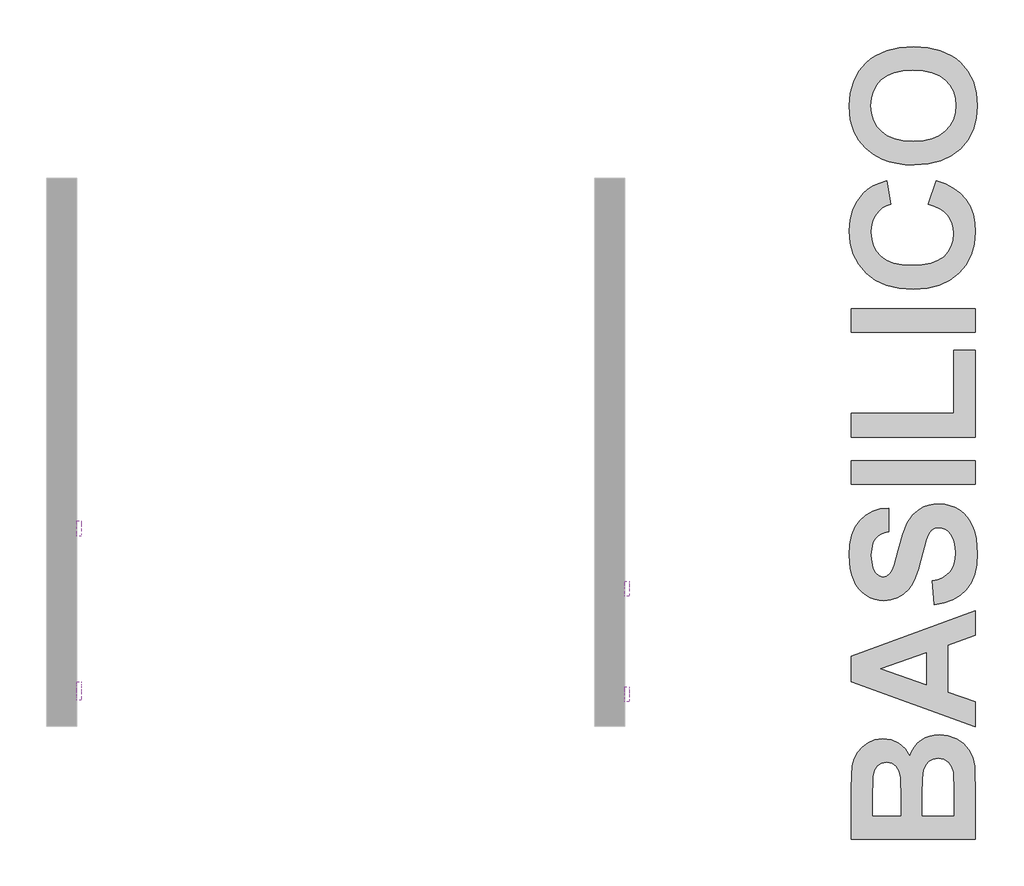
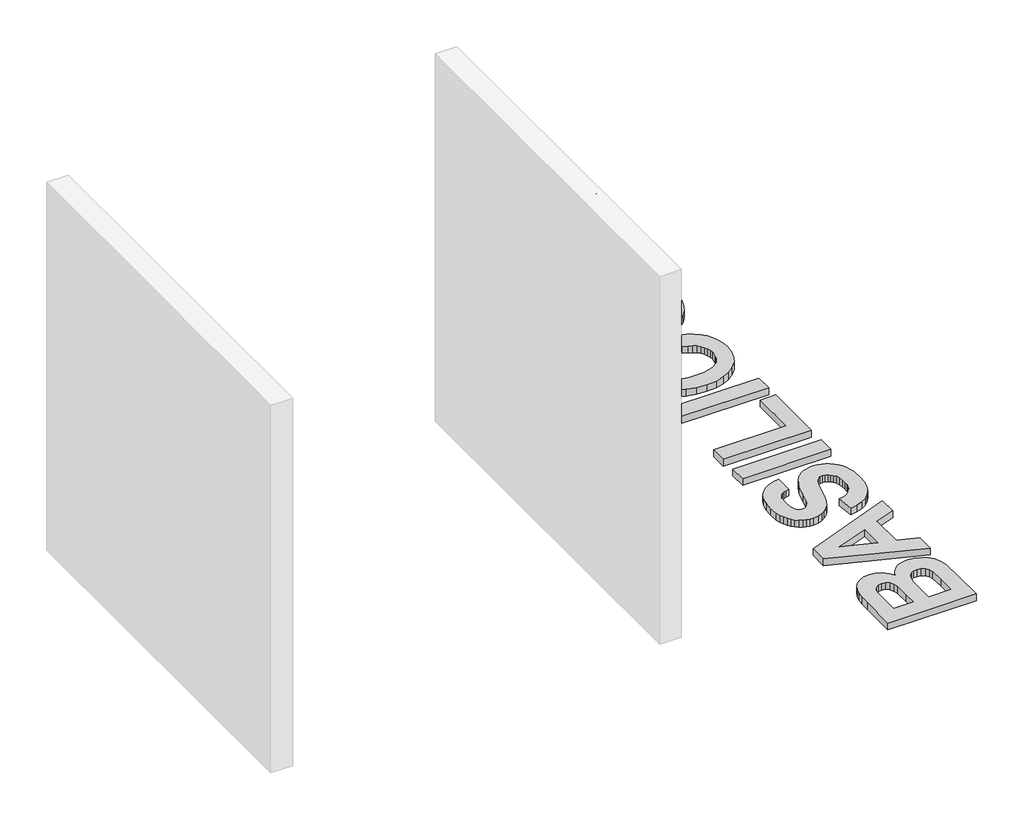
# One storey, part 7 of 9: 5 proxies.
"""IFC4 building model written with IfcOpenShell, lengths in millimetres."""

from ifc_helpers import new_model, si_unit, frame, origin, origin_with_axes, place, context, project, spatial, polyline, outline, extrude, element, save

model = new_model("IFC4")

# Units and contexts
model_context = context("Model", 3, world=origin())
ifc_project = project(units=[si_unit("LENGTHUNIT", "METRE", prefix="MILLI")], contexts=[model_context])

# Site, building, storey
site = spatial("IfcSite", under=ifc_project)
building = spatial("IfcBuilding", under=site)
storey = spatial("IfcBuildingStorey", under=building, Name="PORTOBELLO - SHOWROOM", Elevation=0.0)

# Proxies
placement = place(None, origin())
element("IfcBuildingElementProxy", 1, Name="10mm Arial", ObjectType="10mm Arial", at=placement, inside=storey, context=model_context, shape_type="SweptSolid", body=[
    extrude(outline(polyline([(3723.3696308, 2570.0387989), (3723.3696308, 2670.4951091), (3761.7029347, 2670.4951091), (3780.4771792, 2667.5397904), (3791.56269, 2658.4531051), (3795.5726038, 2645.6017607), (3792.2003521, 2633.8663251), (3782.0100209, 2624.9758435), (3794.3831186, 2615.6071154), (3798.7118634, 2599.9843933), (3795.7565448, 2586.4831241), (3788.435693, 2576.8691413), (3777.5095978, 2571.7678443), (3761.4086291, 2570.0387989), (3723.3696308, 2570.0387989)]), holes=[polyline([(3735.9266696, 2629.6847331), (3758.8579806, 2629.6847331), (3772.2488853, 2630.7638536), (3780.305501, 2635.4114295), (3783.015565, 2643.5906725), (3780.489442, 2651.7821782), (3773.2544294, 2656.6259578), (3757.1166725, 2657.9380703), (3735.9266696, 2657.9380703), (3735.9266696, 2629.6847331)]), polyline([(3735.9266696, 2582.5958377), (3761.6784093, 2582.5958377), (3770.9980865, 2583.086347), (3778.8830239, 2585.8209365), (3784.1069482, 2591.4004801), (3786.1548247, 2599.861766), (3783.751329, 2609.6229016), (3775.9644934, 2615.4476998), (3760.4521359, 2617.1276943), (3735.9266696, 2617.1276943), (3735.9266696, 2582.5958377)])]), frame((499.3339478, 0.0, 0.0), z_axis=(1.0, 0.0, 0.0), x_axis=(0.0, 1.0, 0.0)), (0.0, 0.0, 1.0), 20.0),
    extrude(outline(polyline([(3861.4970573, 2579.456578), (3849.3201632, 2570.9462412), (3835.867945, 2568.4691691), (3825.374111, 2569.9590911), (3817.6332607, 2574.4288574), (3812.8599918, 2581.2162802), (3811.2689022, 2589.659172), (3813.6723979, 2599.5919859), (3819.9877055, 2606.802473), (3828.7800852, 2610.9227513), (3839.6448668, 2612.8112122), (3861.4234809, 2617.1276943), (3861.4970573, 2619.9235975), (3858.0389665, 2629.1942237), (3844.1575526, 2632.8239928), (3831.453361, 2630.4082343), (3825.3955708, 2621.8365838), (3812.8385321, 2623.4062137), (3818.2709229, 2635.6689469), (3829.2092808, 2642.8549085), (3845.7762334, 2645.3810315), (3860.9942852, 2643.1492141), (3869.5904612, 2637.545145), (3873.4409594, 2629.0225455), (3874.0540961, 2618.0351365), (3874.0540961, 2602.4124145), (3874.6917582, 2580.5970122), (3877.1933557, 2570.0387989), (3864.636317, 2570.0387989), (3861.4970573, 2579.456578)]), holes=[polyline([(3861.4970573, 2604.5706555), (3841.2390221, 2600.7201573), (3830.4355542, 2598.6845436), (3825.5427236, 2595.3736056), (3823.825941, 2590.5420888), (3827.5660746, 2583.7485346), (3838.5412208, 2581.0262078), (3851.2454124, 2584.0305775), (3859.4369181, 2591.3023782), (3861.4234809, 2601.0144629), (3861.4970573, 2604.5706555)])]), frame((499.3339478, 0.0, 0.0), z_axis=(1.0, 0.0, 0.0), x_axis=(0.0, 1.0, 0.0)), (0.0, 0.0, 1.0), 20.0),
    extrude(outline(polyline([(3886.6111348, 2592.0136168), (3899.1681736, 2593.5832466), (3904.9807091, 2584.2635694), (3918.2980373, 2581.0262078), (3931.1003308, 2583.9937893), (3935.2696601, 2590.9590217), (3931.0758053, 2596.599879), (3918.1508845, 2600.180597), (3899.24175, 2606.3242264), (3890.9889306, 2613.4979253), (3888.1807647, 2623.6269429), (3890.4371076, 2632.9834083), (3896.5929996, 2640.1325817), (3904.5760389, 2643.8481899), (3915.3795068, 2645.3810315), (3930.6588724, 2642.9162222), (3940.3709571, 2636.2452953), (3944.6874391, 2624.9758435), (3932.1304004, 2623.4062137), (3927.4092481, 2630.3346579), (3916.3605255, 2632.8239928), (3904.343047, 2630.4450225), (3900.7378034, 2624.9022671), (3902.2338569, 2621.2479726), (3906.918221, 2618.4765949), (3917.7339516, 2615.8033191), (3936.1648396, 2609.8926817), (3944.7242273, 2603.1972294), (3947.8266988, 2592.2833969), (3944.1846671, 2580.2659184), (3933.6755047, 2571.5471151), (3918.1263591, 2568.4691691), (3905.4650871, 2569.9529598), (3896.2251176, 2574.4043319), (3890.0569628, 2581.7742346), (3886.6111348, 2592.0136168)])), frame((499.3339478, 0.0, 0.0), z_axis=(1.0, 0.0, 0.0), x_axis=(0.0, 1.0, 0.0)), (0.0, 0.0, 1.0), 20.0),
    extrude(outline(polyline([(519.3339478, 3974.5104062), (519.3339478, 3961.9533674), (499.3339478, 3961.9533674), (499.3339478, 3974.5104062), (519.3339478, 3974.5104062)])), frame((0.0, 0.0, 2657.9380703), z_axis=(0.0, 0.0, 1.0), x_axis=(1.0, 0.0, 0.0)), (0.0, 0.0, 1.0), 12.5570388),
    extrude(outline(polyline([(519.3339478, 3974.5104062), (519.3339478, 3961.9533674), (499.3339478, 3961.9533674), (499.3339478, 3974.5104062), (519.3339478, 3974.5104062)])), frame((0.0, 0.0, 2570.0387989), z_axis=(0.0, 0.0, 1.0), x_axis=(1.0, 0.0, 0.0)), (0.0, 0.0, 1.0), 73.7726028),
    extrude(outline(polyline([(519.3339478, 4005.9030031), (519.3339478, 3993.3459644), (499.3339478, 3993.3459644), (499.3339478, 4005.9030031), (519.3339478, 4005.9030031)])), frame((0.0, 0.0, 2570.0387989), z_axis=(0.0, 0.0, 1.0), x_axis=(1.0, 0.0, 0.0)), (0.0, 0.0, 1.0), 100.4563101),
    extrude(outline(polyline([(519.3339478, 4037.2956001), (519.3339478, 4024.7385613), (499.3339478, 4024.7385613), (499.3339478, 4037.2956001), (519.3339478, 4037.2956001)])), frame((0.0, 0.0, 2657.9380703), z_axis=(0.0, 0.0, 1.0), x_axis=(1.0, 0.0, 0.0)), (0.0, 0.0, 1.0), 12.5570388),
    extrude(outline(polyline([(519.3339478, 4037.2956001), (519.3339478, 4024.7385613), (499.3339478, 4024.7385613), (499.3339478, 4037.2956001), (519.3339478, 4037.2956001)])), frame((0.0, 0.0, 2570.0387989), z_axis=(0.0, 0.0, 1.0), x_axis=(1.0, 0.0, 0.0)), (0.0, 0.0, 1.0), 73.7726028),
    extrude(outline(polyline([(4103.2200536, 2596.7225063), (4115.7770924, 2595.1528764), (4112.276082, 2583.9845922), (4105.6971257, 2575.5447661), (4096.6594913, 2570.2380683), (4085.782447, 2568.4691691), (4072.4252649, 2570.9370441), (4061.9804819, 2578.3406693), (4055.2390444, 2590.3550821), (4052.9918985, 2606.6553202), (4056.830134, 2627.5142293), (4068.5287814, 2640.9173966), (4085.6107688, 2645.3810315), (4096.2210986, 2643.8481899), (4104.7038443, 2639.2496649), (4110.7892256, 2631.8307114), (4114.2074625, 2621.8365838), (4101.6504237, 2620.266954), (4095.8256255, 2629.6724703), (4085.7088706, 2632.8239928), (4077.5940069, 2631.272757), (4071.1530063, 2626.6190498), (4066.9499545, 2618.611485), (4065.5489373, 2606.9986767), (4066.9192977, 2595.2295185), (4071.030379, 2587.1943626), (4077.3548836, 2582.5682465), (4085.3655141, 2581.0262078), (4097.1990516, 2584.876706), (4103.2200536, 2596.7225063)])), frame((499.3339478, 0.0, 0.0), z_axis=(1.0, 0.0, 0.0), x_axis=(0.0, 1.0, 0.0)), (0.0, 0.0, 1.0), 20.0),
    extrude(outline(polyline([(4123.6252416, 2606.9251003), (4126.341437, 2624.7121948), (4134.4900232, 2637.2140512), (4144.5577271, 2643.3392864), (4156.6119938, 2645.3810315), (4169.803629, 2642.8947624), (4180.3403825, 2635.4359549), (4187.247367, 2623.5932204), (4189.5496951, 2607.9551699), (4185.4784677, 2585.61247), (4173.6204047, 2572.9695921), (4156.6119938, 2568.4691691), (4143.2609431, 2570.9462412), (4132.7364523, 2578.3774575), (4125.9030443, 2590.4685124), (4123.6252416, 2606.9251003)]), holes=[polyline([(4136.1822804, 2606.9496258), (4137.6354142, 2595.5851378), (4141.9948159, 2587.4886682), (4148.5553781, 2582.6418229), (4156.6119938, 2581.0262078), (4164.6318213, 2582.65102), (4171.1801208, 2587.5254564), (4175.5395225, 2595.7292249), (4176.9926564, 2607.3420332), (4175.5303254, 2618.3754274), (4171.1433326, 2626.3615324), (4164.5858361, 2631.2083777), (4156.6119938, 2632.8239928), (4148.5553781, 2631.214509), (4141.9948159, 2626.3860578), (4137.6354142, 2618.3079824), (4136.1822804, 2606.9496258)])]), frame((499.3339478, 0.0, 0.0), z_axis=(1.0, 0.0, 0.0), x_axis=(0.0, 1.0, 0.0)), (0.0, 0.0, 1.0), 20.0),
])
element("IfcBuildingElementProxy", 2, Name="10mm Arial", ObjectType="10mm Arial", at=placement, inside=storey, context=model_context, shape_type="SweptSolid", body=[
    extrude(outline(polyline([(4243.3696308, 2570.0387989), (4243.3696308, 2670.4951091), (4280.5992887, 2670.4951091), (4295.6088741, 2669.5386159), (4307.8102937, 2664.8419891), (4315.7197566, 2655.1299044), (4318.7118634, 2641.4324314), (4316.6915782, 2629.5927626), (4310.6307223, 2619.7273937), (4299.2968911, 2613.0687296), (4281.4576801, 2610.8491749), (4255.9266696, 2610.8491749), (4255.9266696, 2570.0387989), (4243.3696308, 2570.0387989)]), holes=[polyline([(4255.9266696, 2623.4062137), (4282.1934441, 2623.4062137), (4300.6856457, 2628.0170014), (4304.7875299, 2633.5658881), (4306.1548247, 2640.990973), (4302.9297259, 2651.3897708), (4294.4561772, 2657.079679), (4281.8991385, 2657.9380703), (4255.9266696, 2657.9380703), (4255.9266696, 2623.4062137)])]), frame((499.3339478, 0.0, 0.0), z_axis=(1.0, 0.0, 0.0), x_axis=(0.0, 1.0, 0.0)), (0.0, 0.0, 1.0), 20.0),
    extrude(outline(polyline([(4331.2689022, 2606.9251003), (4333.9850976, 2624.7121948), (4342.1336838, 2637.2140512), (4352.2013877, 2643.3392864), (4364.2556544, 2645.3810315), (4377.4472897, 2642.8947624), (4387.9840431, 2635.4359549), (4394.8910276, 2623.5932204), (4397.1933557, 2607.9551699), (4393.1221283, 2585.61247), (4381.2640654, 2572.9695921), (4364.2556544, 2568.4691691), (4350.9046037, 2570.9462412), (4340.380113, 2578.3774575), (4333.5467049, 2590.4685124), (4331.2689022, 2606.9251003)]), holes=[polyline([(4343.825941, 2606.9496258), (4345.2790749, 2595.5851378), (4349.6384765, 2587.4886682), (4356.1990388, 2582.6418229), (4364.2556544, 2581.0262078), (4372.2754819, 2582.65102), (4378.8237815, 2587.5254564), (4383.1831831, 2595.7292249), (4384.636317, 2607.3420332), (4383.173986, 2618.3754274), (4378.7869933, 2626.3615324), (4372.2294967, 2631.2083777), (4364.2556544, 2632.8239928), (4356.1990388, 2631.214509), (4349.6384765, 2626.3860578), (4345.2790749, 2618.3079824), (4343.825941, 2606.9496258)])]), frame((499.3339478, 0.0, 0.0), z_axis=(1.0, 0.0, 0.0), x_axis=(0.0, 1.0, 0.0)), (0.0, 0.0, 1.0), 20.0),
    extrude(outline(polyline([(4411.3200244, 2570.0387989), (4411.3200244, 2643.8114017), (4422.3074333, 2643.8114017), (4422.3074333, 2632.8975692), (4430.1065316, 2642.9530104), (4437.9546808, 2645.3810315), (4450.5607705, 2641.5060078), (4446.3669158, 2630.2488188), (4437.5377479, 2632.8239928), (4430.4376254, 2630.3469207), (4425.9126768, 2623.4797901), (4423.8770631, 2608.8135612), (4423.8770631, 2570.0387989), (4411.3200244, 2570.0387989)])), frame((499.3339478, 0.0, 0.0), z_axis=(1.0, 0.0, 0.0), x_axis=(0.0, 1.0, 0.0)), (0.0, 0.0, 1.0), 20.0),
    extrude(outline(polyline([(4485.0926271, 2580.511173), (4486.662257, 2569.6709169), (4477.2690034, 2568.4691691), (4466.7475783, 2570.5538337), (4461.4991285, 2576.0230127), (4459.9785496, 2590.2723086), (4459.9785496, 2631.2543629), (4450.5607705, 2631.2543629), (4450.5607705, 2641.5060078), (4450.5607705, 2643.8114017), (4459.9785496, 2643.8114017), (4459.9785496, 2661.7395176), (4472.5355884, 2669.1216829), (4472.5355884, 2643.8114017), (4485.0926271, 2643.8114017), (4485.0926271, 2631.2543629), (4472.5355884, 2631.2543629), (4472.5355884, 2590.6401906), (4473.197776, 2584.1654675), (4475.3437543, 2581.8723364), (4479.6234481, 2581.0262078), (4485.0926271, 2580.511173)])), frame((499.3339478, 0.0, 0.0), z_axis=(1.0, 0.0, 0.0), x_axis=(0.0, 1.0, 0.0)), (0.0, 0.0, 1.0), 20.0),
    extrude(outline(polyline([(4494.5104062, 2606.9251003), (4497.2266016, 2624.7121948), (4505.3751878, 2637.2140512), (4515.4428917, 2643.3392864), (4527.4971584, 2645.3810315), (4540.6887937, 2642.8947624), (4551.2255471, 2635.4359549), (4558.1325316, 2623.5932204), (4560.4348597, 2607.9551699), (4556.3636323, 2585.61247), (4544.5055694, 2572.9695921), (4527.4971584, 2568.4691691), (4514.1461077, 2570.9462412), (4503.621617, 2578.3774575), (4496.7882089, 2590.4685124), (4494.5104062, 2606.9251003)]), holes=[polyline([(4507.067445, 2606.9496258), (4508.5205789, 2595.5851378), (4512.8799805, 2587.4886682), (4519.4405427, 2582.6418229), (4527.4971584, 2581.0262078), (4535.5169859, 2582.65102), (4542.0652854, 2587.5254564), (4546.4246871, 2595.7292249), (4547.877821, 2607.3420332), (4546.41549, 2618.3754274), (4542.0284973, 2626.3615324), (4535.4710007, 2631.2083777), (4527.4971584, 2632.8239928), (4519.4405427, 2631.214509), (4512.8799805, 2626.3860578), (4508.5205789, 2618.3079824), (4507.067445, 2606.9496258)])]), frame((499.3339478, 0.0, 0.0), z_axis=(1.0, 0.0, 0.0), x_axis=(0.0, 1.0, 0.0)), (0.0, 0.0, 1.0), 20.0),
    extrude(outline(polyline([(4587.1185671, 2570.0387989), (4574.5615284, 2570.0387989), (4574.5615284, 2670.4951091), (4587.1185671, 2670.4951091), (4587.1185671, 2633.2409257), (4595.9109468, 2642.3460051), (4606.8370421, 2645.3810315), (4619.4186063, 2642.646442), (4629.1797419, 2634.9577083), (4635.1762184, 2623.0015435), (4637.3467222, 2608.0287463), (4635.0995763, 2591.26559), (4628.3581388, 2578.7943904), (4618.4651788, 2571.0504744), (4606.7634657, 2568.4691691), (4595.5982471, 2571.7985011), (4587.1185671, 2581.7864973), (4587.1185671, 2570.0387989)]), holes=[polyline([(4587.1185671, 2607.4401351), (4590.5521324, 2589.8799012), (4597.1310888, 2583.2396312), (4605.6843451, 2581.0262078), (4612.9316205, 2582.6571513), (4619.1243007, 2587.5499819), (4623.3733378, 2595.6740426), (4624.7896834, 2606.9986767), (4623.4315857, 2618.4888577), (4619.3572926, 2626.5209479), (4613.3577504, 2631.2482315), (4606.2239054, 2632.8239928), (4598.9766301, 2631.1930492), (4592.7839499, 2626.3002187), (4588.5349128, 2618.3233108), (4587.1185671, 2607.4401351)])]), frame((499.3339478, 0.0, 0.0), z_axis=(1.0, 0.0, 0.0), x_axis=(0.0, 1.0, 0.0)), (0.0, 0.0, 1.0), 20.0),
    extrude(outline(polyline([(4703.1240229, 2592.0136168), (4715.435807, 2590.4439869), (4710.9997633, 2581.1672293), (4703.9211006, 2574.2326537), (4694.3592344, 2569.9100402), (4682.4735803, 2568.4691691), (4667.7399064, 2570.9554382), (4656.4030096, 2578.4142457), (4649.1741283, 2590.3612135), (4646.7645013, 2606.3119636), (4649.1986538, 2622.7992084), (4656.5011114, 2635.1293866), (4667.6847241, 2642.8181203), (4681.7623418, 2645.3810315), (4695.4015667, 2642.8242517), (4706.3000708, 2635.1539121), (4713.4461786, 2622.8482593), (4715.8282145, 2606.38554), (4715.7546381, 2603.0010257), (4659.32154, 2603.0010257), (4661.4951095, 2593.6016407), (4666.5442899, 2586.6915906), (4673.8314191, 2582.4425535), (4682.7188349, 2581.0262078), (4695.030619, 2583.6504327), (4703.1240229, 2592.0136168)]), holes=[polyline([(4659.32154, 2615.5580644), (4703.2711757, 2615.5580644), (4698.2434551, 2626.9378808), (4690.9226034, 2631.3524648), (4681.7132908, 2632.8239928), (4666.2499843, 2628.1273659), (4661.3847449, 2622.6367272), (4659.32154, 2615.5580644)])]), frame((499.3339478, 0.0, 0.0), z_axis=(1.0, 0.0, 0.0), x_axis=(0.0, 1.0, 0.0)), (0.0, 0.0, 1.0), 20.0),
    extrude(outline(polyline([(519.3339478, 4740.942292), (519.3339478, 4728.3852533), (499.3339478, 4728.3852533), (499.3339478, 4740.942292), (519.3339478, 4740.942292)])), frame((0.0, 0.0, 2570.0387989), z_axis=(0.0, 0.0, 1.0), x_axis=(1.0, 0.0, 0.0)), (0.0, 0.0, 1.0), 100.4563101),
    extrude(outline(polyline([(519.3339478, 4772.334889), (519.3339478, 4759.7778502), (499.3339478, 4759.7778502), (499.3339478, 4772.334889), (519.3339478, 4772.334889)])), frame((0.0, 0.0, 2570.0387989), z_axis=(0.0, 0.0, 1.0), x_axis=(1.0, 0.0, 0.0)), (0.0, 0.0, 1.0), 100.4563101),
    extrude(outline(polyline([(4788.0311874, 2606.9251003), (4790.7473828, 2624.7121948), (4798.895969, 2637.2140512), (4808.963673, 2643.3392864), (4821.0179397, 2645.3810315), (4834.2095749, 2642.8947624), (4844.7463283, 2635.4359549), (4851.6533128, 2623.5932204), (4853.955641, 2607.9551699), (4849.8844135, 2585.61247), (4838.0263506, 2572.9695921), (4821.0179397, 2568.4691691), (4807.6668889, 2570.9462412), (4797.1423982, 2578.3774575), (4790.3089901, 2590.4685124), (4788.0311874, 2606.9251003)]), holes=[polyline([(4800.5882262, 2606.9496258), (4802.0413601, 2595.5851378), (4806.4007617, 2587.4886682), (4812.961324, 2582.6418229), (4821.0179397, 2581.0262078), (4829.0377672, 2582.65102), (4835.5860667, 2587.5254564), (4839.9454683, 2595.7292249), (4841.3986022, 2607.3420332), (4839.9362713, 2618.3754274), (4835.5492785, 2626.3615324), (4828.9917819, 2631.2083777), (4821.0179397, 2632.8239928), (4812.961324, 2631.214509), (4806.4007617, 2626.3860578), (4802.0413601, 2618.3079824), (4800.5882262, 2606.9496258)])]), frame((499.3339478, 0.0, 0.0), z_axis=(1.0, 0.0, 0.0), x_axis=(0.0, 1.0, 0.0)), (0.0, 0.0, 1.0), 20.0),
])
element("IfcBuildingElementProxy", 3, Name="10mm Arial", ObjectType="10mm Arial", at=placement, inside=storey, context=model_context, shape_type="SweptSolid", body=[
    extrude(outline(polyline([(3730.3022536, 2563.1824879), (3730.3022536, 2663.638798), (3751.9091895, 2663.638798), (3772.4615302, 2592.8337767), (3776.6063341, 2578.0449205), (3781.0944944, 2594.06005), (3801.3034787, 2663.638798), (3822.9104145, 2663.638798), (3822.9104145, 2563.1824879), (3810.3533758, 2563.1824879), (3810.3533758, 2651.0817592), (3785.1166709, 2563.1824879), (3768.0959972, 2563.1824879), (3742.8592924, 2651.0817592), (3742.8592924, 2563.1824879), (3730.3022536, 2563.1824879)])), frame((-2200.641693, 0.0, 0.0), z_axis=(1.0, 0.0, 0.0), x_axis=(0.0, 1.0, 0.0)), (0.0, 0.0, 1.0), 20.0),
    extrude(outline(polyline([(-2180.641693, 3855.8726413), (-2180.641693, 3843.3156025), (-2200.641693, 3843.3156025), (-2200.641693, 3855.8726413), (-2180.641693, 3855.8726413)])), frame((0.0, 0.0, 2651.0817592), z_axis=(0.0, 0.0, 1.0), x_axis=(1.0, 0.0, 0.0)), (0.0, 0.0, 1.0), 12.5570388),
    extrude(outline(polyline([(-2180.641693, 3855.8726413), (-2180.641693, 3843.3156025), (-2200.641693, 3843.3156025), (-2200.641693, 3855.8726413), (-2180.641693, 3855.8726413)])), frame((0.0, 0.0, 2563.1824879), z_axis=(0.0, 0.0, 1.0), x_axis=(1.0, 0.0, 0.0)), (0.0, 0.0, 1.0), 73.7726028),
    extrude(outline(polyline([(3874.7081994, 2563.1824879), (3874.7081994, 2636.9550906), (3887.2652382, 2636.9550906), (3887.2652382, 2626.6543948), (3896.8669583, 2635.557139), (3909.97582, 2638.5247205), (3921.833883, 2636.1334875), (3929.9272869, 2629.8549681), (3933.691946, 2620.62113), (3934.3541336, 2608.4810242), (3934.3541336, 2563.1824879), (3921.7970948, 2563.1824879), (3921.7970948, 2606.788767), (3920.3500923, 2617.8988033), (3915.2365326, 2623.7726525), (3906.6158312, 2625.9676817), (3892.9919346, 2621.038063), (3888.6969123, 2613.8950209), (3887.2652382, 2602.3251321), (3887.2652382, 2563.1824879), (3874.7081994, 2563.1824879)])), frame((-2200.641693, 0.0, 0.0), z_axis=(1.0, 0.0, 0.0), x_axis=(0.0, 1.0, 0.0)), (0.0, 0.0, 1.0), 20.0),
    extrude(outline(polyline([(-2180.641693, 3964.1771007), (-2180.641693, 3951.6200619), (-2200.641693, 3951.6200619), (-2200.641693, 3964.1771007), (-2180.641693, 3964.1771007)])), frame((0.0, 0.0, 2651.0817592), z_axis=(0.0, 0.0, 1.0), x_axis=(1.0, 0.0, 0.0)), (0.0, 0.0, 1.0), 12.5570388),
    extrude(outline(polyline([(-2180.641693, 3964.1771007), (-2180.641693, 3951.6200619), (-2200.641693, 3951.6200619), (-2200.641693, 3964.1771007), (-2180.641693, 3964.1771007)])), frame((0.0, 0.0, 2563.1824879), z_axis=(0.0, 0.0, 1.0), x_axis=(1.0, 0.0, 0.0)), (0.0, 0.0, 1.0), 73.7726028),
    extrude(outline(polyline([(4023.8230348, 2563.1824879), (4023.8230348, 2663.638798), (4062.1563387, 2663.638798), (4080.9305832, 2660.6834793), (4092.016094, 2651.596794), (4096.0260077, 2638.7454497), (4092.6537561, 2627.010014), (4082.4634249, 2618.1195325), (4094.8365226, 2608.7508043), (4099.1652674, 2593.1280823), (4096.2099487, 2579.626813), (4088.889097, 2570.0128302), (4077.9630018, 2564.9115332), (4061.8620331, 2563.1824879), (4023.8230348, 2563.1824879)]), holes=[polyline([(4036.3800736, 2622.828422), (4059.3113846, 2622.828422), (4072.7022892, 2623.9075425), (4080.7589049, 2628.5551184), (4083.468969, 2636.7343614), (4080.9428459, 2644.9258672), (4073.7078334, 2649.7696468), (4057.5700765, 2651.0817592), (4036.3800736, 2651.0817592), (4036.3800736, 2622.828422)]), polyline([(4036.3800736, 2575.7395266), (4062.1318133, 2575.7395266), (4071.4514905, 2576.230036), (4079.3364279, 2578.9646255), (4084.5603522, 2584.544169), (4086.6082287, 2593.0054549), (4084.204733, 2602.7665905), (4076.4178974, 2608.5913888), (4060.9055399, 2610.2713832), (4036.3800736, 2610.2713832), (4036.3800736, 2575.7395266)])]), frame((-2200.641693, 0.0, 0.0), z_axis=(1.0, 0.0, 0.0), x_axis=(0.0, 1.0, 0.0)), (0.0, 0.0, 1.0), 20.0),
    extrude(outline(polyline([(4161.9504613, 2572.6002669), (4149.7735672, 2564.0899301), (4136.3213489, 2561.612858), (4125.827515, 2563.1027801), (4118.0866647, 2567.5725463), (4113.3133958, 2574.3599691), (4111.7223062, 2582.8028609), (4114.1258019, 2592.7356748), (4120.4411095, 2599.9461619), (4129.2334892, 2604.0664403), (4140.0982708, 2605.9549012), (4161.8768849, 2610.2713832), (4161.9504613, 2613.0672864), (4158.4923705, 2622.3379127), (4144.6109566, 2625.9676817), (4131.906765, 2623.5519233), (4125.8489748, 2614.9802728), (4113.291936, 2616.5499026), (4118.7243268, 2628.8126358), (4129.6626848, 2635.9985974), (4146.2296373, 2638.5247205), (4161.4476892, 2636.292903), (4170.0438652, 2630.688834), (4173.8943634, 2622.1662344), (4174.5075, 2611.1788255), (4174.5075, 2595.5561034), (4175.1451622, 2573.7407011), (4177.6467597, 2563.1824879), (4165.089721, 2563.1824879), (4161.9504613, 2572.6002669)]), holes=[polyline([(4161.9504613, 2597.7143445), (4141.6924261, 2593.8638463), (4130.8889581, 2591.8282325), (4125.9961276, 2588.5172946), (4124.279345, 2583.6857777), (4128.0194786, 2576.8922235), (4138.9946248, 2574.1698968), (4151.6988163, 2577.1742664), (4159.8903221, 2584.4460672), (4161.8768849, 2594.1581519), (4161.9504613, 2597.7143445)])]), frame((-2200.641693, 0.0, 0.0), z_axis=(1.0, 0.0, 0.0), x_axis=(0.0, 1.0, 0.0)), (0.0, 0.0, 1.0), 20.0),
    extrude(outline(polyline([(4187.0645388, 2585.1573057), (4199.6215776, 2586.7269355), (4205.4341131, 2577.4072583), (4218.7514413, 2574.1698968), (4231.5537348, 2577.1374782), (4235.723064, 2584.1027107), (4231.5292093, 2589.7435679), (4218.6042885, 2593.324286), (4199.695154, 2599.4679153), (4191.4423346, 2606.6416142), (4188.6341687, 2616.7706318), (4190.8905116, 2626.1270972), (4197.0464036, 2633.2762707), (4205.0294429, 2636.9918788), (4215.8329108, 2638.5247205), (4231.1122764, 2636.0599111), (4240.824361, 2629.3889843), (4245.1408431, 2618.1195325), (4232.5838043, 2616.5499026), (4227.8626521, 2623.4783469), (4216.8139295, 2625.9676817), (4204.796451, 2623.5887115), (4201.1912074, 2618.0459561), (4202.6872609, 2614.3916616), (4207.3716249, 2611.6202839), (4218.1873556, 2608.9470081), (4236.6182436, 2603.0363707), (4245.1776313, 2596.3409184), (4248.2801028, 2585.4270858), (4244.6380711, 2573.4096073), (4234.1289087, 2564.690804), (4218.5797631, 2561.612858), (4205.9184911, 2563.0966487), (4196.6785216, 2567.5480209), (4190.5103668, 2574.9179235), (4187.0645388, 2585.1573057)])), frame((-2200.641693, 0.0, 0.0), z_axis=(1.0, 0.0, 0.0), x_axis=(0.0, 1.0, 0.0)), (0.0, 0.0, 1.0), 20.0),
    extrude(outline(polyline([(-2180.641693, 4274.9638102), (-2180.641693, 4262.4067714), (-2200.641693, 4262.4067714), (-2200.641693, 4274.9638102), (-2180.641693, 4274.9638102)])), frame((0.0, 0.0, 2651.0817592), z_axis=(0.0, 0.0, 1.0), x_axis=(1.0, 0.0, 0.0)), (0.0, 0.0, 1.0), 12.5570388),
    extrude(outline(polyline([(-2180.641693, 4274.9638102), (-2180.641693, 4262.4067714), (-2200.641693, 4262.4067714), (-2200.641693, 4274.9638102), (-2180.641693, 4274.9638102)])), frame((0.0, 0.0, 2563.1824879), z_axis=(0.0, 0.0, 1.0), x_axis=(1.0, 0.0, 0.0)), (0.0, 0.0, 1.0), 73.7726028),
    extrude(outline(polyline([(-2180.641693, 4306.3564071), (-2180.641693, 4293.7993683), (-2200.641693, 4293.7993683), (-2200.641693, 4306.3564071), (-2180.641693, 4306.3564071)])), frame((0.0, 0.0, 2563.1824879), z_axis=(0.0, 0.0, 1.0), x_axis=(1.0, 0.0, 0.0)), (0.0, 0.0, 1.0), 100.4563101),
    extrude(outline(polyline([(-2180.641693, 4337.749004), (-2180.641693, 4325.1919653), (-2200.641693, 4325.1919653), (-2200.641693, 4337.749004), (-2180.641693, 4337.749004)])), frame((0.0, 0.0, 2651.0817592), z_axis=(0.0, 0.0, 1.0), x_axis=(1.0, 0.0, 0.0)), (0.0, 0.0, 1.0), 12.5570388),
    extrude(outline(polyline([(-2180.641693, 4337.749004), (-2180.641693, 4325.1919653), (-2200.641693, 4325.1919653), (-2200.641693, 4337.749004), (-2180.641693, 4337.749004)])), frame((0.0, 0.0, 2563.1824879), z_axis=(0.0, 0.0, 1.0), x_axis=(1.0, 0.0, 0.0)), (0.0, 0.0, 1.0), 73.7726028),
    extrude(outline(polyline([(4403.6734576, 2589.8661952), (4416.2304963, 2588.2965654), (4412.729486, 2577.1282812), (4406.1505297, 2568.6884551), (4397.1128953, 2563.3817573), (4386.235851, 2561.612858), (4372.8786689, 2564.0807331), (4362.4338859, 2571.4843582), (4355.6924484, 2583.498771), (4353.4453025, 2599.7990091), (4357.283538, 2620.6579182), (4368.9821854, 2634.0610856), (4386.0641727, 2638.5247205), (4396.6745026, 2636.9918788), (4405.1572483, 2632.3933539), (4411.2426296, 2624.9744003), (4414.6608665, 2614.9802728), (4402.1038277, 2613.4106429), (4396.2790295, 2622.8161593), (4386.1622746, 2625.9676817), (4378.0474109, 2624.416446), (4371.6064103, 2619.7627387), (4367.4033585, 2611.755174), (4366.0023413, 2600.1423656), (4367.3727017, 2588.3732075), (4371.483783, 2580.3380516), (4377.8082876, 2575.7119355), (4385.8189181, 2574.1698968), (4397.6524556, 2578.020395), (4403.6734576, 2589.8661952)])), frame((-2200.641693, 0.0, 0.0), z_axis=(1.0, 0.0, 0.0), x_axis=(0.0, 1.0, 0.0)), (0.0, 0.0, 1.0), 20.0),
    extrude(outline(polyline([(4424.0786456, 2600.0687892), (4426.794841, 2617.8558837), (4434.9434272, 2630.3577402), (4445.0111311, 2636.4829754), (4457.0653978, 2638.5247205), (4470.257033, 2636.0384513), (4480.7937865, 2628.5796439), (4487.700771, 2616.7369093), (4490.0030991, 2601.0988588), (4485.9318717, 2578.756159), (4474.0738087, 2566.1132811), (4457.0653978, 2561.612858), (4443.7143471, 2564.0899301), (4433.1898563, 2571.5211464), (4426.3564483, 2583.6122013), (4424.0786456, 2600.0687892)]), holes=[polyline([(4436.6356843, 2600.0933147), (4438.0888182, 2588.7288267), (4442.4482199, 2580.6323572), (4449.0087821, 2575.7855119), (4457.0653978, 2574.1698968), (4465.0852253, 2575.7947089), (4471.6335248, 2580.6691454), (4475.9929265, 2588.8729139), (4477.4460603, 2600.4857222), (4475.9837294, 2611.5191163), (4471.5967366, 2619.5052213), (4465.0392401, 2624.3520666), (4457.0653978, 2625.9676817), (4449.0087821, 2624.358198), (4442.4482199, 2619.5297468), (4438.0888182, 2611.4516713), (4436.6356843, 2600.0933147)])]), frame((-2200.641693, 0.0, 0.0), z_axis=(1.0, 0.0, 0.0), x_axis=(0.0, 1.0, 0.0)), (0.0, 0.0, 1.0), 20.0),
])
element("IfcBuildingElementProxy", 4, Name="10mm Arial", ObjectType="10mm Arial", at=placement, inside=storey, context=model_context, shape_type="SweptSolid", body=[
    extrude(outline(polyline([(4540.3022536, 2563.1824879), (4540.3022536, 2663.638798), (4577.5319115, 2663.638798), (4592.5414969, 2662.6823048), (4604.7429164, 2657.985678), (4612.6523793, 2648.2735933), (4615.6444862, 2634.5761204), (4613.6242009, 2622.7364515), (4607.5633451, 2612.8710827), (4596.2295139, 2606.2124186), (4578.3903028, 2603.9928639), (4552.8592924, 2603.9928639), (4552.8592924, 2563.1824879), (4540.3022536, 2563.1824879)]), holes=[polyline([(4552.8592924, 2616.5499026), (4579.1260668, 2616.5499026), (4597.6182685, 2621.1606903), (4601.7201527, 2626.7095771), (4603.0874474, 2634.134662), (4599.8623486, 2644.5334597), (4591.3888, 2650.2233679), (4578.8317612, 2651.0817592), (4552.8592924, 2651.0817592), (4552.8592924, 2616.5499026)])]), frame((-2200.641693, 0.0, 0.0), z_axis=(1.0, 0.0, 0.0), x_axis=(0.0, 1.0, 0.0)), (0.0, 0.0, 1.0), 20.0),
    extrude(outline(polyline([(4628.201525, 2600.0687892), (4630.9177204, 2617.8558837), (4639.0663066, 2630.3577402), (4649.1340105, 2636.4829754), (4661.1882772, 2638.5247205), (4674.3799124, 2636.0384513), (4684.9166659, 2628.5796439), (4691.8236504, 2616.7369093), (4694.1259785, 2601.0988588), (4690.0547511, 2578.756159), (4678.1966881, 2566.1132811), (4661.1882772, 2561.612858), (4647.8372265, 2564.0899301), (4637.3127357, 2571.5211464), (4630.4793277, 2583.6122013), (4628.201525, 2600.0687892)]), holes=[polyline([(4640.7585638, 2600.0933147), (4642.2116976, 2588.7288267), (4646.5710993, 2580.6323572), (4653.1316615, 2575.7855119), (4661.1882772, 2574.1698968), (4669.2081047, 2575.7947089), (4675.7564042, 2580.6691454), (4680.1158059, 2588.8729139), (4681.5689397, 2600.4857222), (4680.1066088, 2611.5191163), (4675.719616, 2619.5052213), (4669.1621195, 2624.3520666), (4661.1882772, 2625.9676817), (4653.1316615, 2624.358198), (4646.5710993, 2619.5297468), (4642.2116976, 2611.4516713), (4640.7585638, 2600.0933147)])]), frame((-2200.641693, 0.0, 0.0), z_axis=(1.0, 0.0, 0.0), x_axis=(0.0, 1.0, 0.0)), (0.0, 0.0, 1.0), 20.0),
    extrude(outline(polyline([(4708.2526471, 2563.1824879), (4708.2526471, 2636.9550906), (4719.2400561, 2636.9550906), (4719.2400561, 2626.0412581), (4727.0391544, 2636.0966993), (4734.8873036, 2638.5247205), (4747.4933933, 2634.6496968), (4743.2995385, 2623.3925077), (4734.4703707, 2625.9676817), (4727.3702481, 2623.4906096), (4722.8452996, 2616.623479), (4720.8096859, 2601.9572501), (4720.8096859, 2563.1824879), (4708.2526471, 2563.1824879)])), frame((-2200.641693, 0.0, 0.0), z_axis=(1.0, 0.0, 0.0), x_axis=(0.0, 1.0, 0.0)), (0.0, 0.0, 1.0), 20.0),
    extrude(outline(polyline([(4782.0252499, 2573.654862), (4783.5948797, 2562.8146059), (4774.2016261, 2561.612858), (4763.6802011, 2563.6975227), (4758.4317513, 2569.1667016), (4756.9111724, 2583.4159976), (4756.9111724, 2624.3980519), (4747.4933933, 2624.3980519), (4747.4933933, 2634.6496968), (4747.4933933, 2636.9550906), (4756.9111724, 2636.9550906), (4756.9111724, 2654.8832065), (4769.4682111, 2662.2653719), (4769.4682111, 2636.9550906), (4782.0252499, 2636.9550906), (4782.0252499, 2624.3980519), (4769.4682111, 2624.3980519), (4769.4682111, 2583.7838796), (4770.1303987, 2577.3091565), (4772.276377, 2575.0160254), (4776.5560709, 2574.1698968), (4782.0252499, 2573.654862)])), frame((-2200.641693, 0.0, 0.0), z_axis=(1.0, 0.0, 0.0), x_axis=(0.0, 1.0, 0.0)), (0.0, 0.0, 1.0), 20.0),
    extrude(outline(polyline([(4791.443029, 2600.0687892), (4794.1592244, 2617.8558837), (4802.3078106, 2630.3577402), (4812.3755145, 2636.4829754), (4824.4297812, 2638.5247205), (4837.6214164, 2636.0384513), (4848.1581699, 2628.5796439), (4855.0651544, 2616.7369093), (4857.3674825, 2601.0988588), (4853.2962551, 2578.756159), (4841.4381921, 2566.1132811), (4824.4297812, 2561.612858), (4811.0787305, 2564.0899301), (4800.5542397, 2571.5211464), (4793.7208317, 2583.6122013), (4791.443029, 2600.0687892)]), holes=[polyline([(4804.0000677, 2600.0933147), (4805.4532016, 2588.7288267), (4809.8126033, 2580.6323572), (4816.3731655, 2575.7855119), (4824.4297812, 2574.1698968), (4832.4496087, 2575.7947089), (4838.9979082, 2580.6691454), (4843.3573099, 2588.8729139), (4844.8104437, 2600.4857222), (4843.3481128, 2611.5191163), (4838.96112, 2619.5052213), (4832.4036235, 2624.3520666), (4824.4297812, 2625.9676817), (4816.3731655, 2624.358198), (4809.8126033, 2619.5297468), (4805.4532016, 2611.4516713), (4804.0000677, 2600.0933147)])]), frame((-2200.641693, 0.0, 0.0), z_axis=(1.0, 0.0, 0.0), x_axis=(0.0, 1.0, 0.0)), (0.0, 0.0, 1.0), 20.0),
    extrude(outline(polyline([(4884.0511899, 2563.1824879), (4871.4941511, 2563.1824879), (4871.4941511, 2663.638798), (4884.0511899, 2663.638798), (4884.0511899, 2626.3846146), (4892.8435696, 2635.489694), (4903.7696648, 2638.5247205), (4916.3512291, 2635.790131), (4926.1123647, 2628.1013973), (4932.1088412, 2616.1452324), (4934.279345, 2601.1724352), (4932.0321991, 2584.409279), (4925.2907616, 2571.9380793), (4915.3978016, 2564.1941633), (4903.6960884, 2561.612858), (4892.5308699, 2564.9421901), (4884.0511899, 2574.9301862), (4884.0511899, 2563.1824879)]), holes=[polyline([(4884.0511899, 2600.583824), (4887.4847552, 2583.0235901), (4894.0637115, 2576.3833201), (4902.6169679, 2574.1698968), (4909.8642432, 2575.8008403), (4916.0569235, 2580.6936708), (4920.3059605, 2588.8177316), (4921.7223062, 2600.1423656), (4920.3642085, 2611.6325466), (4916.2899154, 2619.6646369), (4910.2903732, 2624.3919205), (4903.1565282, 2625.9676817), (4895.9092529, 2624.3367382), (4889.7165726, 2619.4439077), (4885.4675356, 2611.4669997), (4884.0511899, 2600.583824)])]), frame((-2200.641693, 0.0, 0.0), z_axis=(1.0, 0.0, 0.0), x_axis=(0.0, 1.0, 0.0)), (0.0, 0.0, 1.0), 20.0),
    extrude(outline(polyline([(5000.0566457, 2585.1573057), (5012.3684298, 2583.5876759), (5007.9323861, 2574.3109182), (5000.8537234, 2567.3763426), (4991.2918572, 2563.0537292), (4979.406203, 2561.612858), (4964.6725291, 2564.0991272), (4953.3356323, 2571.5579346), (4946.1067511, 2583.5049024), (4943.697124, 2599.4556526), (4946.1312766, 2615.9428973), (4953.4337342, 2628.2730755), (4964.6173468, 2635.9618092), (4978.6949645, 2638.5247205), (4992.3341895, 2635.9679406), (5003.2326936, 2628.297601), (5010.3788014, 2615.9919483), (5012.7608373, 2599.529229), (5012.6872609, 2596.1447146), (4956.2541628, 2596.1447146), (4958.4277323, 2586.7453296), (4963.4769127, 2579.8352795), (4970.7640418, 2575.5862425), (4979.6514577, 2574.1698968), (4991.9632418, 2576.7941217), (5000.0566457, 2585.1573057)]), holes=[polyline([(4956.2541628, 2608.7017534), (5000.2037985, 2608.7017534), (4995.1760779, 2620.0815698), (4987.8552262, 2624.4961537), (4978.6459136, 2625.9676817), (4963.1826071, 2621.2710549), (4958.3173677, 2615.7804161), (4956.2541628, 2608.7017534)])]), frame((-2200.641693, 0.0, 0.0), z_axis=(1.0, 0.0, 0.0), x_axis=(0.0, 1.0, 0.0)), (0.0, 0.0, 1.0), 20.0),
    extrude(outline(polyline([(-2180.641693, 5037.8749148), (-2180.641693, 5025.317876), (-2200.641693, 5025.317876), (-2200.641693, 5037.8749148), (-2180.641693, 5037.8749148)])), frame((0.0, 0.0, 2563.1824879), z_axis=(0.0, 0.0, 1.0), x_axis=(1.0, 0.0, 0.0)), (0.0, 0.0, 1.0), 100.4563101),
    extrude(outline(polyline([(-2180.641693, 5069.2675117), (-2180.641693, 5056.710473), (-2200.641693, 5056.710473), (-2200.641693, 5069.2675117), (-2180.641693, 5069.2675117)])), frame((0.0, 0.0, 2563.1824879), z_axis=(0.0, 0.0, 1.0), x_axis=(1.0, 0.0, 0.0)), (0.0, 0.0, 1.0), 100.4563101),
    extrude(outline(polyline([(5084.9638102, 2600.0687892), (5087.6800056, 2617.8558837), (5095.8285918, 2630.3577402), (5105.8962957, 2636.4829754), (5117.9505624, 2638.5247205), (5131.1421976, 2636.0384513), (5141.6789511, 2628.5796439), (5148.5859356, 2616.7369093), (5150.8882637, 2601.0988588), (5146.8170363, 2578.756159), (5134.9589733, 2566.1132811), (5117.9505624, 2561.612858), (5104.5995117, 2564.0899301), (5094.0750209, 2571.5211464), (5087.2416129, 2583.6122013), (5084.9638102, 2600.0687892)]), holes=[polyline([(5097.520849, 2600.0933147), (5098.9739828, 2588.7288267), (5103.3333845, 2580.6323572), (5109.8939467, 2575.7855119), (5117.9505624, 2574.1698968), (5125.9703899, 2575.7947089), (5132.5186894, 2580.6691454), (5136.8780911, 2588.8729139), (5138.331225, 2600.4857222), (5136.868894, 2611.5191163), (5132.4819012, 2619.5052213), (5125.9244047, 2624.3520666), (5117.9505624, 2625.9676817), (5109.8939467, 2624.358198), (5103.3333845, 2619.5297468), (5098.9739828, 2611.4516713), (5097.520849, 2600.0933147)])]), frame((-2200.641693, 0.0, 0.0), z_axis=(1.0, 0.0, 0.0), x_axis=(0.0, 1.0, 0.0)), (0.0, 0.0, 1.0), 20.0),
])
element("IfcBuildingElementProxy", 5, Name="600mm Arial", ObjectType="600mm Arial", at=placement, inside=storey, context=model_context, shape_type="SweptSolid", body=[
    extrude(outline(polyline([(1614.3039248, 3046.6476682), (1614.3039248, 3297.9169103), (1615.822168, 3362.9926075), (1620.3768975, 3409.1282214), (1629.771027, 3443.8580335), (1645.8074703, 3474.7163257), (1668.3533811, 3501.2286467), (1697.2759132, 3522.9205458), (1731.341494, 3537.3818119), (1769.3165509, 3542.2022339), (1810.6886769, 3536.4518879), (1848.5688436, 3519.2008501), (1880.1862573, 3492.0812317), (1902.7701242, 3456.7251443), (1912.3160781, 3480.5425838), (1924.7087378, 3501.4374052), (1939.9481035, 3519.4096085), (1958.0341751, 3534.4591938), (1978.4071004, 3546.3489355), (2000.5070273, 3554.8416081), (2024.3339558, 3559.9372117), (2049.8878859, 3561.6357463), (2090.8994291, 3556.7583901), (2130.7343339, 3542.1263217), (2166.0334873, 3519.0490258), (2193.4377762, 3488.835987), (2212.3968376, 3451.1266226), (2222.3603083, 3405.56035), (2226.4595648, 3255.8615749), (2226.4595648, 3046.6476682), (1614.3039248, 3046.6476682)]), holes=[polyline([(1721.1882429, 3163.2487425), (1857.2228296, 3163.2487425), (1857.2228296, 3252.2177913), (1855.2491135, 3350.9035964), (1848.1513267, 3381.9706469), (1834.1455336, 3405.6362621), (1813.9149436, 3420.6099352), (1788.1427661, 3425.6011596), (1763.4902928, 3421.2931446), (1743.8859781, 3408.3690998), (1730.1648556, 3386.9808493), (1723.161959, 3357.2802176), (1721.1882429, 3241.2864406), (1721.1882429, 3163.2487425)]), polyline([(1964.1071477, 3163.2487425), (2119.5752467, 3163.2487425), (2119.5752467, 3286.5300866), (2115.9314632, 3377.9283245), (2107.7898842, 3404.9150966), (2092.778255, 3426.3602812), (2071.2002242, 3440.3660743), (2043.3594404, 3445.034672), (2019.2193742, 3441.4288445), (1999.0267402, 3430.611362), (1983.2749675, 3412.9997414), (1972.457485, 3389.0114996), (1966.194732, 3345.893394), (1964.1071477, 3270.8921821), (1964.1071477, 3163.2487425)])]), origin_with_axes(), (0.0, 0.0, 1.0), 50.0),
    extrude(outline(polyline([(2226.4595648, 4173.7913862), (2226.4595648, 4051.2691636), (2090.4249782, 4003.29268), (2090.4249782, 3772.0642475), (2226.4595648, 3724.6950611), (2226.4595648, 3600.502771), (1614.3039248, 3823.9881634), (1614.3039248, 3948.1804534), (2226.4595648, 4173.7913862)]), holes=[polyline([(1983.5406601, 3965.9438984), (1760.0552677, 3887.1470786), (1983.5406601, 3809.4130291), (1983.5406601, 3965.9438984)])]), origin_with_axes(), (0.0, 0.0, 1.0), 50.0),
    extrude(outline(polyline([(2022.4076848, 4202.9416548), (2012.6909286, 4319.5427291), (2040.759449, 4326.6025598), (2064.842581, 4336.5470524), (2084.9403248, 4349.3762071), (2101.0526802, 4365.0900237), (2113.4073839, 4383.7359475), (2122.2321722, 4405.3614234), (2127.5270452, 4429.9664515), (2129.2920029, 4457.5510318), (2127.7310592, 4486.5399871), (2123.0482279, 4511.7143564), (2115.2435092, 4533.0741398), (2104.316903, 4550.6193372), (2091.3027125, 4564.3025037), (2077.2352407, 4574.076194), (2062.1144878, 4579.9404082), (2045.9404537, 4581.8951462), (2026.1084025, 4578.6499015), (2009.4267058, 4568.9141672), (1995.3260225, 4551.0558321), (1983.2370114, 4523.4427848), (1957.2750535, 4422.3277907), (1944.6072122, 4375.3950991), (1930.4401057, 4336.0156673), (1914.7737342, 4304.1894952), (1897.6080975, 4279.9165827), (1871.0293533, 4254.7422134), (1841.6987933, 4236.7605211), (1809.6164177, 4225.9715057), (1774.7822263, 4222.3751672), (1751.8567547, 4224.0262566), (1729.6904046, 4228.9795249), (1708.2831761, 4237.2349721), (1687.6350692, 4248.7925981), (1668.5716286, 4263.4626226), (1651.918399, 4281.0552651), (1637.6753804, 4301.5705257), (1625.8425728, 4325.0084044), (1616.5433335, 4351.1886098), (1609.9010197, 4379.9308506), (1604.5871686, 4445.101438), (1607.8988365, 4499.0133035), (1617.8338402, 4545.8178933), (1634.3921796, 4585.5152072), (1657.5738547, 4618.1052455), (1686.2781394, 4643.6923871), (1719.4043072, 4662.3810115), (1756.9523582, 4674.1711185), (1798.9222925, 4679.0627081), (1798.9222925, 4562.4616338), (1777.2541159, 4557.1904834), (1758.8596512, 4549.5755451), (1743.7388983, 4539.6168189), (1731.8918572, 4527.3143048), (1722.9579451, 4512.1555958), (1716.5765793, 4493.6282848), (1711.4714867, 4446.4678568), (1716.899206, 4396.8213057), (1723.6838551, 4376.5527595), (1733.1823639, 4359.3206997), (1749.5034778, 4344.062356), (1770.5311455, 4338.9762415), (1790.3821747, 4343.6068831), (1807.1208055, 4357.498808), (1816.8423062, 4373.4640836), (1826.7251202, 4397.8271417), (1846.9746883, 4471.7466053), (1868.0403121, 4550.6383153), (1890.0927939, 4605.8833881), (1916.7948954, 4644.5985885), (1951.8093781, 4673.9006814), (1972.5428862, 4684.6612297), (1995.5727371, 4692.3473357), (2020.8989307, 4696.9589993), (2048.5214671, 4698.4962205), (2074.2177325, 4696.6790732), (2099.0789641, 4691.2276314), (2123.1051621, 4682.141895), (2146.2963262, 4669.4218641), (2167.6086645, 4653.3759317), (2185.9983847, 4634.3124911), (2201.4654869, 4612.2315422), (2214.0099709, 4587.1330851), (2223.7077491, 4558.8890179), (2230.6347335, 4527.3712389), (2236.176321, 4454.5145455), (2232.7650184, 4400.0285943), (2222.5311107, 4352.2608691), (2205.4745977, 4311.2113698), (2181.5954796, 4276.8800964), (2151.1784269, 4249.0298236), (2114.5081102, 4227.4233257), (2071.5845295, 4212.0606028), (2022.4076848, 4202.9416548)])), origin_with_axes(), (0.0, 0.0, 1.0), 50.0),
    extrude(outline(polyline([(2226.4595648, 4795.6637824), (1614.3039248, 4795.6637824), (1614.3039248, 4912.2648567), (2226.4595648, 4912.2648567), (2226.4595648, 4795.6637824)])), origin_with_axes(), (0.0, 0.0, 1.0), 50.0),
    extrude(outline(polyline([(2226.4595648, 5028.865931), (1614.3039248, 5028.865931), (1614.3039248, 5145.4670052), (2119.5752467, 5145.4670052), (2119.5752467, 5456.4032033), (2226.4595648, 5456.4032033), (2226.4595648, 5028.865931)])), origin_with_axes(), (0.0, 0.0, 1.0), 50.0),
    extrude(outline(polyline([(2226.4595648, 5543.854009), (1614.3039248, 5543.854009), (1614.3039248, 5660.4550833), (2226.4595648, 5660.4550833), (2226.4595648, 5543.854009)])), origin_with_axes(), (0.0, 0.0, 1.0), 50.0),
    extrude(outline(polyline([(1993.2574163, 6175.4431614), (2032.124441, 6292.0442357), (2078.2268433, 6275.9413692), (2118.0000694, 6255.2647952), (2151.4441194, 6230.0145138), (2178.5589933, 6200.1905248), (2199.5154933, 6165.9161856), (2214.4844219, 6127.3148534), (2223.4657791, 6084.3865282), (2226.4595648, 6037.13121), (2221.3449832, 5978.7452717), (2206.0012383, 5925.8060307), (2180.4283302, 5878.313487), (2144.6262588, 5836.2676406), (2099.9519539, 5801.8604551), (2047.7623455, 5777.2838941), (1988.0574334, 5762.5379574), (1920.8372178, 5757.6226452), (1849.9542405, 5762.580658), (1787.4595566, 5777.4546964), (1733.3531662, 5802.2447604), (1709.445581, 5818.358302), (1687.6350692, 5836.95085), (1651.3016127, 5879.7415845), (1625.3491438, 5928.7855829), (1609.7776624, 5984.0828453), (1604.5871686, 6045.6333717), (1608.8667165, 6099.4550915), (1621.7053602, 6147.9629603), (1643.1030997, 6191.156978), (1673.0599349, 6229.0371447), (1695.4635105, 6248.7458387), (1722.2889692, 6265.8165852), (1753.5363111, 6280.2493842), (1789.2055363, 6292.0442357), (1808.6390486, 6175.4431614), (1787.2840098, 6168.0939156), (1768.3107148, 6157.5848263), (1751.7191639, 6143.9158934), (1737.5093568, 6127.0871169), (1726.1177887, 6107.6868161), (1717.9809543, 6086.3033102), (1713.0988536, 6062.9365991), (1711.4714867, 6037.5866829), (1714.4273164, 6002.9375274), (1723.2948053, 5971.7139081), (1738.0739535, 5943.9158248), (1758.764761, 5919.5432777), (1786.0694152, 5899.715971), (1820.6901037, 5885.553609), (1862.6268263, 5877.0561919), (1911.8795832, 5874.2237195), (1964.0122575, 5876.9707907), (2008.060287, 5885.2120043), (2044.0236717, 5898.9473604), (2071.9024117, 5918.1768588), (2092.759277, 5941.8092624), (2107.657038, 5968.7533339), (2116.5956945, 5999.0090733), (2119.5752467, 6032.5764805), (2117.6726983, 6057.565814), (2111.9650529, 6080.7617227), (2102.4523106, 6102.1642066), (2089.1344715, 6121.7732659), (2071.7268648, 6139.1618945), (2049.94482, 6153.9030866), (2023.7883372, 6165.9968423), (1993.2574163, 6175.4431614)])), origin_with_axes(), (0.0, 0.0, 1.0), 50.0),
    extrude(outline(polyline([(1924.1773527, 6369.7782852), (1879.3702016, 6371.4957978), (1838.3207023, 6376.6483355), (1801.0288548, 6385.2358983), (1767.4946591, 6397.2584863), (1723.2568492, 6421.4934426), (1683.7635492, 6453.2057465), (1651.443948, 6490.3457697), (1628.7272348, 6530.8638839), (1618.1659559, 6560.0331305), (1610.6221852, 6591.3658736), (1606.0959228, 6624.8621132), (1604.5871686, 6660.5218493), (1609.820363, 6723.6238304), (1625.5199461, 6780.0834977), (1651.685918, 6829.9008513), (1688.3182786, 6873.075891), (1710.2723119, 6891.7573985), (1734.2688566, 6907.9480384), (1788.3894806, 6932.8567152), (1850.6801505, 6947.8019212), (1921.1408664, 6952.7836566), (1991.1223868, 6947.8398773), (2053.0382405, 6933.0085395), (2106.8884274, 6908.2896431), (2130.7888958, 6892.2223605), (2152.6729475, 6873.6831882), (2189.2056734, 6830.7928191), (2215.3004776, 6781.2221801), (2230.9573602, 6724.9712712), (2236.176321, 6662.0400925), (2230.9810827, 6598.4446823), (2215.3953678, 6541.7193225), (2189.4191763, 6491.8640129), (2153.0525083, 6448.8787535), (2107.5763813, 6414.2722986), (2054.271813, 6389.5534023), (1993.1388035, 6374.7220645), (1924.1773527, 6369.7782852)]), holes=[polyline([(1919.9262719, 6486.3793595), (1968.3487395, 6489.4775244), (2010.5274321, 6498.7720192), (2046.4623498, 6514.2628439), (2076.1534925, 6535.9499985), (2099.4015908, 6562.4101299), (2116.0073753, 6592.2198854), (2125.970846, 6625.3792648), (2129.2920029, 6661.8882682), (2125.9945686, 6698.3593154), (2116.1022655, 6731.4048266), (2099.6150937, 6761.0248016), (2076.5330533, 6787.2192406), (2046.8561441, 6808.6407026), (2010.5843663, 6823.9417469), (1967.7177197, 6833.1223735), (1918.2562044, 6836.1825823), (1869.4826431, 6833.2030301), (1827.3134394, 6824.2643735), (1791.7485935, 6809.3666126), (1762.7881054, 6788.5097473), (1740.3370847, 6762.7185917), (1724.3006414, 6733.0179599), (1714.6787754, 6699.4078521), (1711.4714867, 6661.8882682), (1714.7167315, 6624.3307281), (1724.4524657, 6590.606752), (1740.6786894, 6560.7163399), (1763.3954026, 6534.6594918), (1792.6500504, 6513.5369339), (1828.4900779, 6498.4493925), (1870.915485, 6489.3968677), (1919.9262719, 6486.3793595)])]), origin_with_axes(), (0.0, 0.0, 1.0), 50.0),
])

save(model, "model.ifc")
